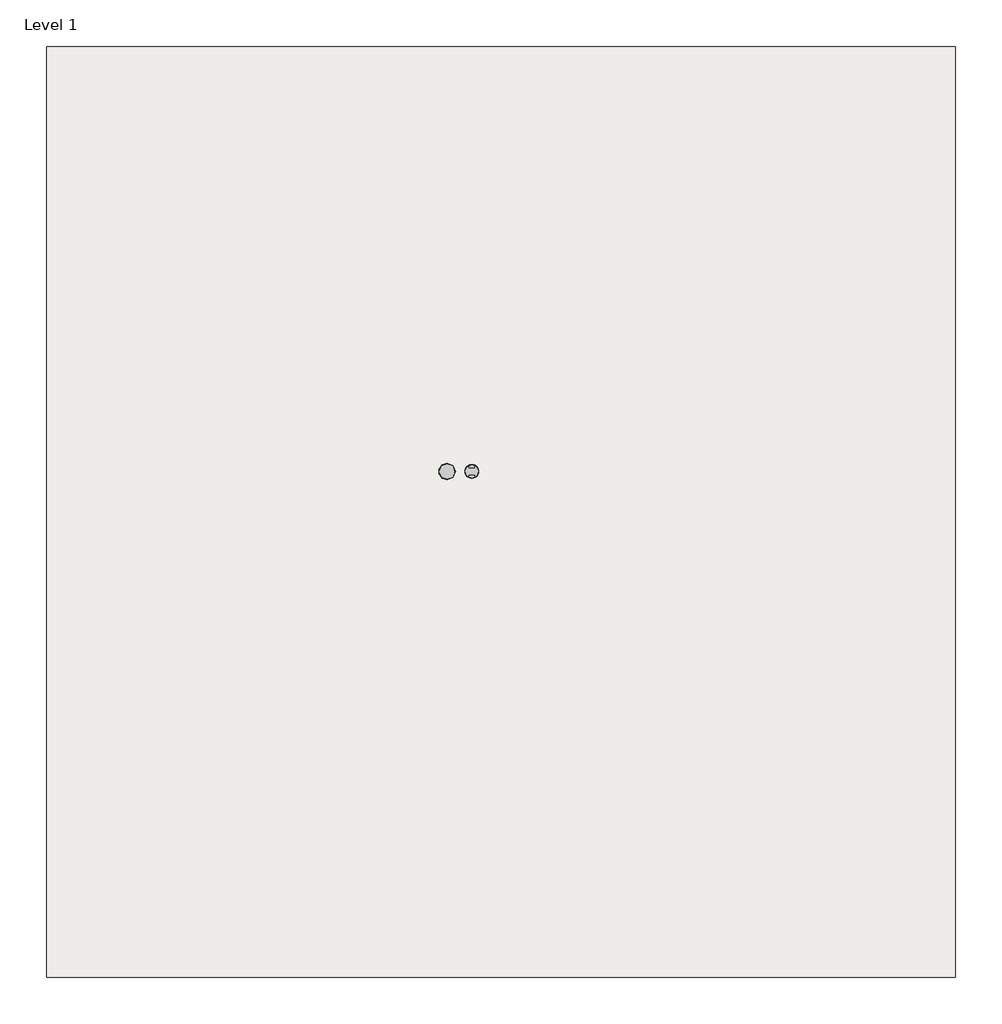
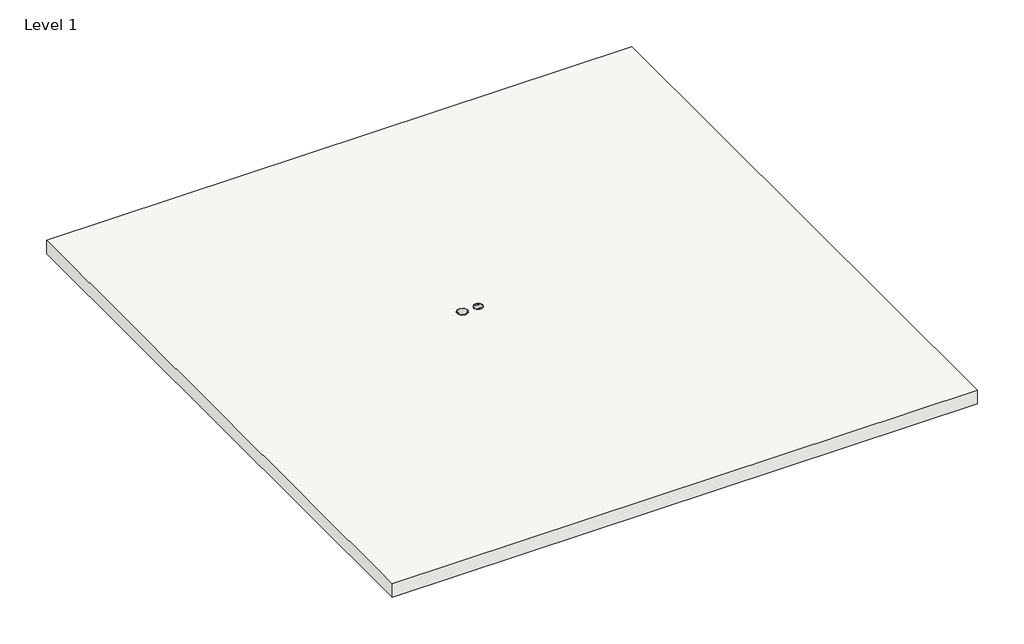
# One storey: 2 proxies, 1 slab.
"""IFC4 building model written with IfcOpenShell, lengths in millimetres."""

from ifc_helpers import new_model, si_unit, frame, origin, place, context, project, spatial, polyline, circle_curve, transform, mapped, element, save
from ifc_brep_helpers import plane_surface, revolved_surface, advanced_brep
from components import flush_bronze_2731afef, surface_black_41f3d47d

model = new_model("IFC4")

# Units and contexts
model_context = context("Model", 3, world=origin())
ifc_project = project(units=[si_unit("LENGTHUNIT", "METRE", prefix="MILLI")], contexts=[model_context])

# Site, building, storey
site = spatial("IfcSite", under=ifc_project)
building = spatial("IfcBuilding", under=site)
storey = spatial("IfcBuildingStorey", under=building, Name="Level 1", Elevation=0.0)

# Proxies
placement = place(None, origin())
flush_bronze_shape = flush_bronze_2731afef(model_context)
element("IfcBuildingElementProxy", 1, Name="Poke_Thru_Device-Evolution_8AT_Series-Wiremold-Prewired : Flush-Bronze", ObjectType="Poke_Thru_Device-Evolution_8AT_Series-Wiremold-Prewired : Flush-Bronze", at=placement, inside=storey, context=model_context, shape_type="MappedRepresentation", body=[
    mapped(flush_bronze_shape, transform((-7412.3212788, -4384.8115898, 0.0), x_axis=(1.0, 0.0, 0.0), y_axis=(0.0, 1.0, 0.0), z_axis=(0.0, 0.0, 1.0))),
])
surface_black_shape = surface_black_41f3d47d(model_context)
element("IfcBuildingElementProxy", 2, Name="Poke_Thru_Device-Evolution_8AT_Series-Wiremold-Prewired : Surface-Black", ObjectType="Poke_Thru_Device-Evolution_8AT_Series-Wiremold-Prewired : Surface-Black", at=placement, inside=storey, context=model_context, shape_type="MappedRepresentation", body=[
    mapped(surface_black_shape, transform((-7754.8562742, -4384.8115898, 0.0), x_axis=(0.0, 1.0, 0.0), y_axis=(-1.0, 0.0, 0.0), z_axis=(0.0, 0.0, 1.0))),
])

# Slab
element("IfcSlab", 3, ObjectType="Generic - 12\"", at=placement, inside=storey, context=model_context, shape_type="AdvancedBrep", body=[
    advanced_brep(
    [(-684.3512413, 1527.3905092, -304.8), (-684.3512413, -11426.6094908, -304.8), (-13333.5512413, -11426.6094908, -304.8), (-13333.5512413, 1527.3905092, -304.8), (-684.3512413, -11426.6094908, 0.0), (-684.3512413, 1527.3905092, 0.0), (-13333.5512413, 1527.3905092, 0.0), (-13333.5512413, -11426.6094908, 0.0), (-7316.0138409, -4384.8115898, 0.0), (-7508.6287168, -4384.8115898, 0.0), (-7508.6287168, -4384.8115898, -12.7), (-7316.0138409, -4384.8115898, -12.7)],
    [
        (0, 1),
        (1, 2),
        (2, 3),
        (3, 0),
        (4, 5),
        (5, 6),
        (6, 7),
        (7, 4),
        (8, 9, circle_curve(frame((-7412.3212788, -4384.8115898, 0.0), z_axis=(0.0, 0.0, -1.0), x_axis=(1.0, 0.0, 0.0)), 96.3074379)),
        (9, 8, circle_curve(frame((-7412.3212788, -4384.8115898, 0.0), z_axis=(0.0, 0.0, -1.0), x_axis=(1.0, 0.0, 0.0)), 96.3074379)),
        (0, 5),
        (4, 1),
        (7, 2),
        (6, 3),
        (10, 11, circle_curve(frame((-7412.3212788, -4384.8115898, -12.7), z_axis=(0.0, 0.0, 1.0), x_axis=(1.0, 0.0, 0.0)), 96.3074379)),
        (11, 10, circle_curve(frame((-7412.3212788, -4384.8115898, -12.7), z_axis=(0.0, 0.0, 1.0), x_axis=(1.0, 0.0, 0.0)), 96.3074379)),
        (10, 9),
        (8, 11),
    ],
    [
        plane_surface(frame((-684.3512413, 1527.3905092, -304.8), z_axis=(0.0, 0.0, -1.0), x_axis=(0.0, -1.0, 0.0))),
        plane_surface(frame((-684.3512413, 1527.3905092, 0.0), z_axis=(0.0, 0.0, 1.0), x_axis=(0.0, 1.0, 0.0))),
        plane_surface(frame((-684.3512413, 1527.3905092, -304.8), z_axis=(1.0, 0.0, 0.0), x_axis=(0.0, 0.0, 1.0))),
        plane_surface(frame((-684.3512413, -11426.6094908, -304.8), z_axis=(0.0, -1.0, 0.0), x_axis=(0.0, 0.0, 1.0))),
        plane_surface(frame((-13333.5512413, -11426.6094908, -304.8), z_axis=(-1.0, 0.0, 0.0), x_axis=(0.0, 0.0, 1.0))),
        plane_surface(frame((-13333.5512413, 1527.3905092, -304.8), z_axis=(0.0, 1.0, 0.0), x_axis=(0.0, 0.0, 1.0))),
        plane_surface(frame((-7316.0138409, -4384.8115898, -12.7), z_axis=(0.0, 0.0, 1.0), x_axis=(0.0, -1.0, 0.0))),
        revolved_surface(polyline([(-7316.0138409, -4384.8115898, 0.0), (-7316.0138409, -4384.8115898, -12.7)]), (-7412.3212788, -4384.8115898, -12.7), (0.0, 0.0, 1.0)),
    ],
    [
        (0, [[1, 2, 3, 4]]),
        (1, [[5, 6, 7, 8], [9, 10]]),
        (2, [[-1, 11, -5, 12]]),
        (3, [[-2, -12, -8, 13]]),
        (4, [[-3, -13, -7, 14]]),
        (5, [[-4, -14, -6, -11]]),
        (6, [[15, 16]]),
        (7, [[-15, 17, -9, 18]]),
        (7, [[-16, -18, -10, -17]]),
    ],
),
])

save(model, "model.ifc")
